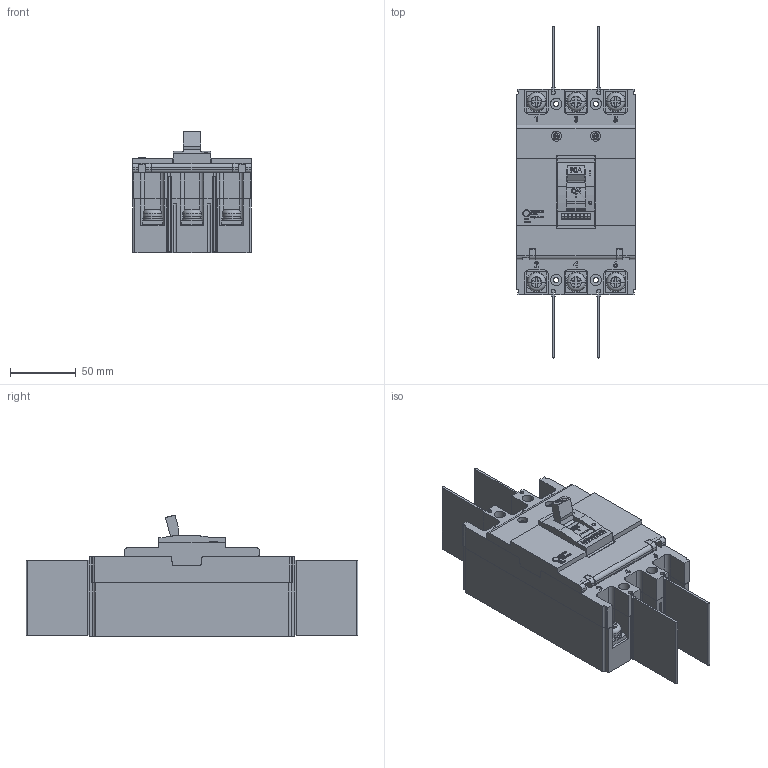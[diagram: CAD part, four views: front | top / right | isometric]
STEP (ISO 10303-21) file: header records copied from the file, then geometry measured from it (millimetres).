
FILE_DESCRIPTION (( 'STEP AP203' ), '1' );
FILE_NAME ('DCM100S3.STEP', '2018-08-29T15:56:46', ( '' ), ( '' ), 'SwSTEP 2.0', 'SolidWorks 2012', '' );
FILE_SCHEMA (( 'CONFIG_CONTROL_DESIGN' ));
Length unit declared in the file: millimetre
Products named in the file (1): DCM100S3
Bounding box: 90 x 251.5 x 92.17 mm (x, y, z)
Volume: 874011.5 mm3; surface area: 129468.5 mm2
Topology: 7 solids, 7 shells, 1290 faces, 3449 edges, 2294 vertices
Faces by surface type: plane 866, bspline 210, cylinder 196, torus 18
Entity records: 52439 total; most frequent: CARTESIAN_POINT 21321, ORIENTED_EDGE 6898, DIRECTION 5521, EDGE_CURVE 3449, LINE 2447, VECTOR 2447, VERTEX_POINT 2294, AXIS2_PLACEMENT_3D 1537
